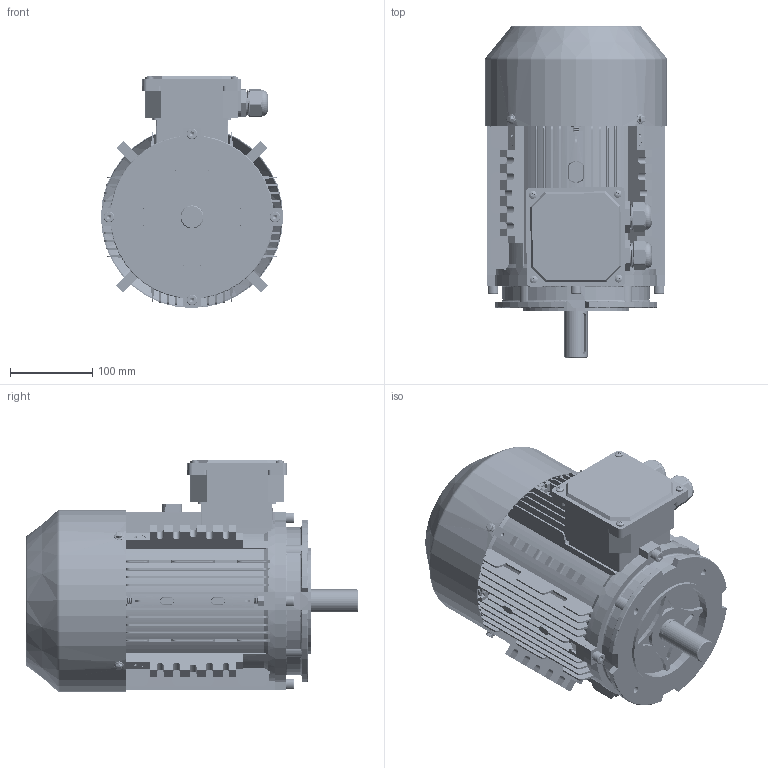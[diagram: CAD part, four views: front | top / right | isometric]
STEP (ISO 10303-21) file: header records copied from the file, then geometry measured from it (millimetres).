
FILE_DESCRIPTION (( 'STEP AP203' ), '1' );
FILE_NAME ('ME3-112B14B 3D.STEP', '2024-07-12T07:12:32', ( 'User' ), ( 'China' ), 'SwSTEP 2.0', 'SolidWorks 2018', '' );
FILE_SCHEMA (( 'CONFIG_CONTROL_DESIGN' ));
Length unit declared in the file: millimetre
Products named in the file (17): MS112-132諉盄碟裔; hex nuts-style normal-grades ab gb_GB_HEXAGON_TYPE10 M8X1-S; ME3-112B14B傷裔; spring lock washers--normal type gb_GB_FASTENER_WASHER_SW 8; ME3-112B14B  3D; 蚐猾45X30X7; ME3-112 儂褲; ME3-112瑞欶; ME3-112B3傷裔; cross recessed pan head screws gb_GB_CROSS_SCREWS_TYPE1 M5X8-8  H type-S; deep groove ball bearings gb_Rolling bearings 6306 GB 276-94; hex flange bolts-heavy grade b gb_GB_FASTENER_BOLT_HFBB M5X10-S; ME3-112 转轴（386）; M24 蹟杶; MS112-132 諉盄碟釱; M24 蹟杶簸; hexagon socket head cap screws gb_GB_FASTENER_SCREWS_HSHCS M8X40-S
Assembly tree (45 placements, depth 2):
  ME3-112B14B  3D
    ME3-112 儂褲
    ME3-112B3傷裔
    deep groove ball bearings gb_Rolling bearings 6306 GB 276-94  x2
    ME3-112 转轴（386）
    MS112-132 諉盄碟釱
    hexagon socket head cap screws gb_GB_FASTENER_SCREWS_HSHCS M8X40-S  x8
    hex nuts-style normal-grades ab gb_GB_HEXAGON_TYPE10 M8X1-S  x7
    spring lock washers--normal type gb_GB_FASTENER_WASHER_SW 8  x4
    蚐猾45X30X7
    ME3-112瑞欶
    cross recessed pan head screws gb_GB_CROSS_SCREWS_TYPE1 M5X8-8  H type-S  x8
    hex flange bolts-heavy grade b gb_GB_FASTENER_BOLT_HFBB M5X10-S  x4
    M24 蹟杶  x2
    M24 蹟杶簸  x2
    MS112-132諉盄碟裔
    ME3-112B14B傷裔
Bounding box: 221.6 x 403.61 x 282.3 mm (x, y, z)
Volume: 2537402.3 mm3; surface area: 1228227.1 mm2
Topology: 45 solids, 46 shells, 6425 faces, 15713 edges, 9365 vertices
Faces by surface type: cone 2353, plane 1871, cylinder 1842, torus 243, sphere 72, bspline 44
Entity records: 112116 total; most frequent: CARTESIAN_POINT 30477, ORIENTED_EDGE 17096, DIRECTION 15877, EDGE_CURVE 8548, VERTEX_POINT 5500, AXIS2_PLACEMENT_3D 5433, VECTOR 5011, LINE 5011
